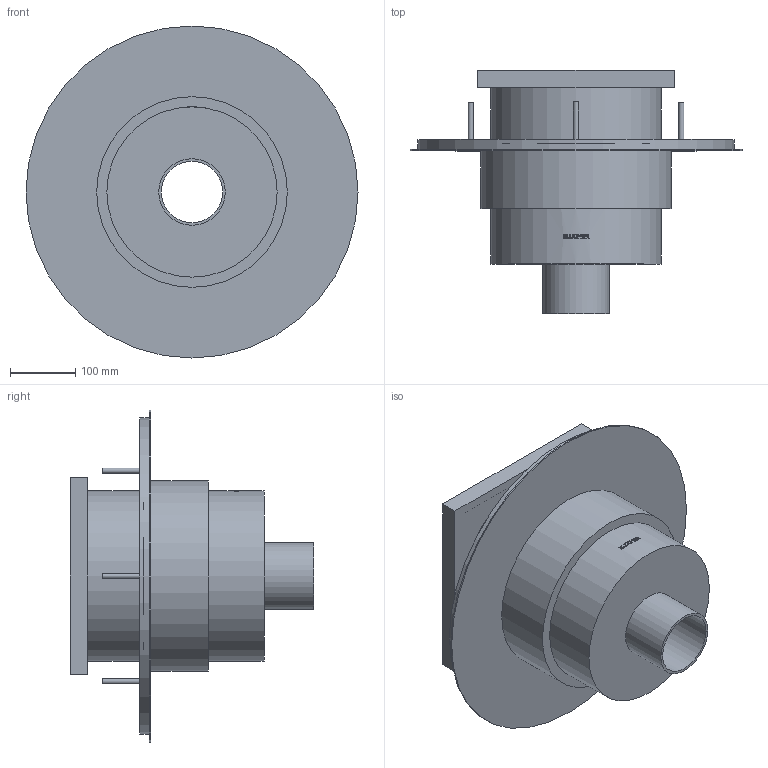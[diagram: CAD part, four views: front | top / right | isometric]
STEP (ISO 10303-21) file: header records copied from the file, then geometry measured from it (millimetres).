
FILE_DESCRIPTION((''),'2;1');
FILE_NAME('C:\Drawings\3D_CAD_Models\Blucher\BFD_Floor Drains_Complete_091119\BFD-100\WebsiteFiles\3D\STEP\BFD-134.stp','2009-11-24T16:12:05',('hofmansp'),(''),'Autodesk Inventor 2010','Autodesk Inventor 2010','');
FILE_SCHEMA(('AUTOMOTIVE_DESIGN { 1 0 10303 214 1 1 1 1 }'));
Length unit declared in the file: inch
Products named in the file (1): BFD-134
Bounding box: 507 x 372 x 507 mm (x, y, z)
Volume: 4301454.9 mm3; surface area: 1042919 mm2
Topology: 1 solids, 1 shells, 134 faces, 329 edges, 220 vertices
Faces by surface type: plane 77, bspline 34, cylinder 23
Full cylindrical faces by diameter (mm): 8 x4, 93.6 x1, 101.6 x1, 252 x1, 260 x2, 291 x1, 479 x1, 483 x1, 507 x1
Entity records: 14489 total; most frequent: CARTESIAN_POINT 11605, ORIENTED_EDGE 628, DIRECTION 464, EDGE_CURVE 314, VERTEX_POINT 218, EDGE_LOOP 172, AXIS2_PLACEMENT_3D 162, VECTOR 140
